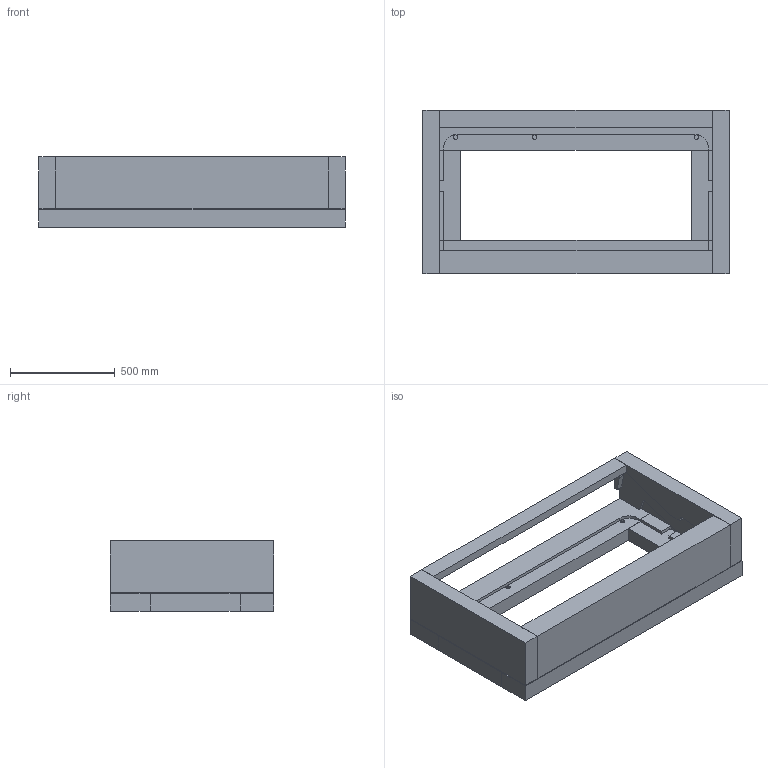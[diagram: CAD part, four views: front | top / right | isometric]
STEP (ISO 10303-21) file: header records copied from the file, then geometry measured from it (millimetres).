
FILE_DESCRIPTION(/* description */ (''),/* implementation_level */ '2;1');
FILE_NAME(/* name */ 'C:\VaultWorkspace\Designs\56-NewConsole\Marketing\D9-330 Console (Marketing)\Transport GA\D93-30-01-3060-foam-STEP.stp',/* time_stamp */ '2025-11-13T14:23:23+00:00',/* author */ ('nashib.rai'),/* organization */ (''),/* preprocessor_version */ 'ST-DEVELOPER v18.1',/* originating_system */ 'Autodesk Inventor 2022',/* authorisation */ '');
FILE_SCHEMA (('CONFIG_CONTROL_DESIGN'));
Length unit declared in the file: millimetre
Products named in the file (6): 3S-case-screen-assembly-NoConsole; Lis-Side-Block; 3S-Front-Lid-block; 3s Lid-back top; Lis-Side-Block-MIR; D-315-Base
Assembly tree (5 placements, depth 2):
  3S-case-screen-assembly-NoConsole
    Lis-Side-Block
    3S-Front-Lid-block
    3s Lid-back top
    Lis-Side-Block-MIR
    D-315-Base
Bounding box: 1465 x 780.26 x 337 mm (x, y, z)
Volume: 110201558.2 mm3; surface area: 4578359.4 mm2
Topology: 8 solids, 8 shells, 147 faces, 375 edges, 250 vertices
Faces by surface type: plane 112, cylinder 35
Full cylindrical faces by diameter (mm): 22 x6
Entity records: 4637 total; most frequent: CARTESIAN_POINT 783, DIRECTION 761, ORIENTED_EDGE 750, EDGE_CURVE 375, LINE 305, VECTOR 305, VERTEX_POINT 250, AXIS2_PLACEMENT_3D 228
